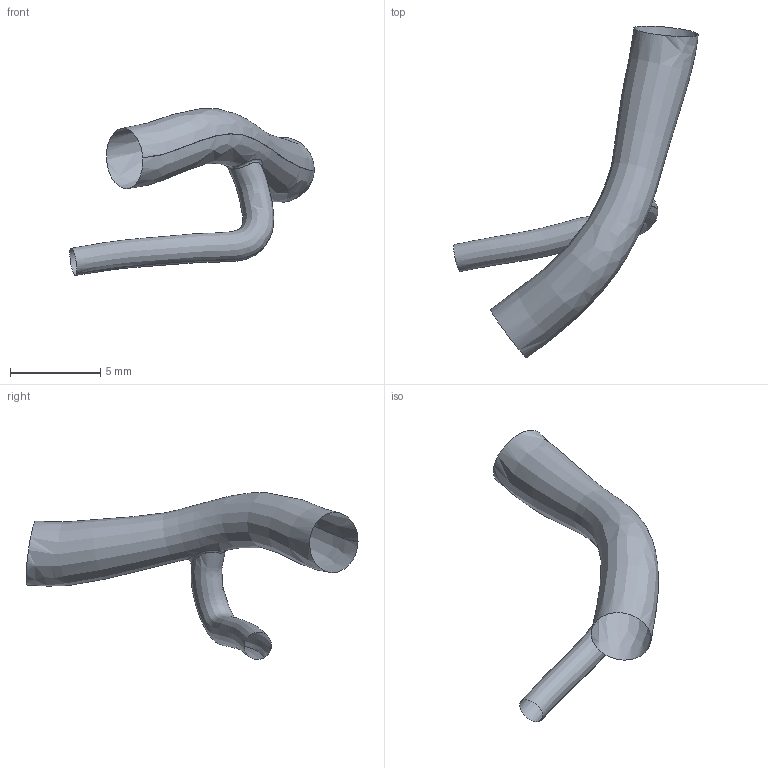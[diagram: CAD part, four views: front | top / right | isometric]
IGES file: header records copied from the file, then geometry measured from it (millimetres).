
Global section: file name: C:\Documents and Settings\Administrator\Desktop\FDA Bifurcation win\RawData_for_IGES\HRCA_Data\20010719.155526\IGES\20010719.155526.RM1.BIFUR.ES.igs; native system: Rhinoceros ( May 19 2006 ); preprocessor: Trout Lake IGES 012 May 19 2006; date: 100728.211746; units: centimetre
Bounding box: 13.56 x 18.41 x 9.26 mm (x, y, z)
Surface area: 270.5 mm2 (no closed solid volume)
Topology: 0 solids, 0 shells, 3 faces, 36 edges, 31 vertices
Faces by surface type: bspline 3
